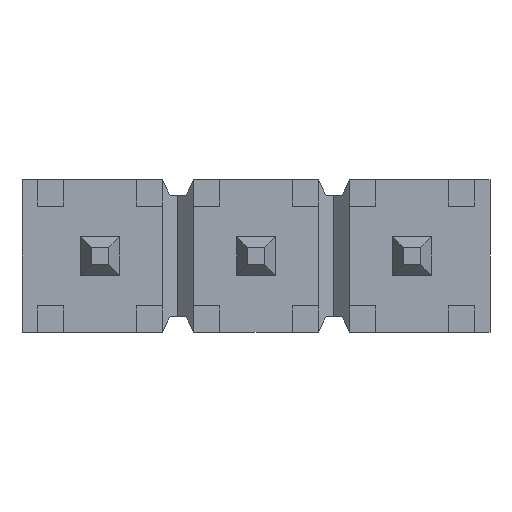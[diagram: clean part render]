
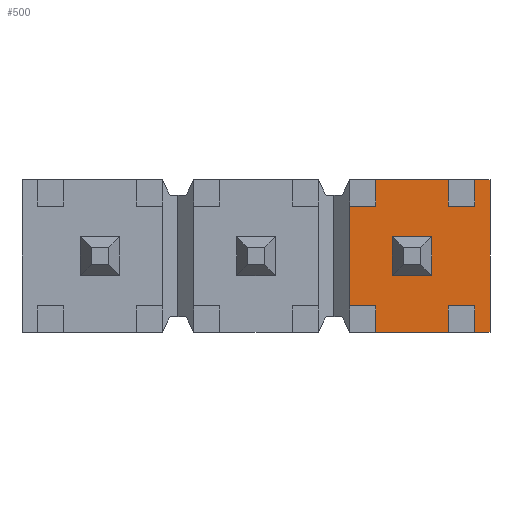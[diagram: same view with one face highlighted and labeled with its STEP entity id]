
A CAD part, front view. The second image highlights one B-rep face of the part: STEP entity #500.
In plain terms, the highlighted planar face has unit normal (0, -1, 0).
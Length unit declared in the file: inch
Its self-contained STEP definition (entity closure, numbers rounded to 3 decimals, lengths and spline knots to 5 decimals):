
#500 = ADVANCED_FACE( '', ( #995, #996 ), #997, .T. );
#995 = FACE_OUTER_BOUND( '', #1483, .T. );
#996 = FACE_BOUND( '', #1484, .T. );
#997 = PLANE( '', #1485 );
#1483 = EDGE_LOOP( '', ( #2764, #2765, #2766, #2767, #2768, #2769, #2770, #2771, #2772, #2773, #2774, #2775, #2776, #2777, #2778, #2779 ) );
#1484 = EDGE_LOOP( '', ( #2780, #2781, #2782, #2783 ) );
#1485 = AXIS2_PLACEMENT_3D( '', #2784, #2785, #2786 );
#2764 = ORIENTED_EDGE( '', *, *, #3361, .T. );
#2765 = ORIENTED_EDGE( '', *, *, #3070, .T. );
#2766 = ORIENTED_EDGE( '', *, *, #3288, .T. );
#2767 = ORIENTED_EDGE( '', *, *, #3168, .T. );
#2768 = ORIENTED_EDGE( '', *, *, #2960, .F. );
#2769 = ORIENTED_EDGE( '', *, *, #3067, .T. );
#2770 = ORIENTED_EDGE( '', *, *, #3415, .T. );
#2771 = ORIENTED_EDGE( '', *, *, #3116, .T. );
#2772 = ORIENTED_EDGE( '', *, *, #3111, .F. );
#2773 = ORIENTED_EDGE( '', *, *, #3251, .F. );
#2774 = ORIENTED_EDGE( '', *, *, #3296, .T. );
#2775 = ORIENTED_EDGE( '', *, *, #3430, .T. );
#2776 = ORIENTED_EDGE( '', *, *, #3329, .F. );
#2777 = ORIENTED_EDGE( '', *, *, #3275, .F. );
#2778 = ORIENTED_EDGE( '', *, *, #3214, .T. );
#2779 = ORIENTED_EDGE( '', *, *, #3431, .T. );
#2780 = ORIENTED_EDGE( '', *, *, #3336, .F. );
#2781 = ORIENTED_EDGE( '', *, *, #3368, .F. );
#2782 = ORIENTED_EDGE( '', *, *, #3165, .F. );
#2783 = ORIENTED_EDGE( '', *, *, #3040, .F. );
#2784 = CARTESIAN_POINT( '', ( 0.18637, 0.02, 0.098 ) );
#2785 = DIRECTION( '', ( 0., -1., 0. ) );
#2786 = DIRECTION( '', ( 1., 0., 0. ) );
#2960 = EDGE_CURVE( '', #3534, #3535, #3536, .T. );
#3040 = EDGE_CURVE( '', #3669, #3671, #3672, .T. );
#3067 = EDGE_CURVE( '', #3534, #3715, #3717, .T. );
#3070 = EDGE_CURVE( '', #3722, #3720, #3723, .T. );
#3111 = EDGE_CURVE( '', #3618, #3777, #3785, .T. );
#3116 = EDGE_CURVE( '', #3791, #3777, #3792, .T. );
#3165 = EDGE_CURVE( '', #3671, #3870, #3871, .T. );
#3168 = EDGE_CURVE( '', #3874, #3535, #3875, .T. );
#3214 = EDGE_CURVE( '', #3941, #3942, #3943, .T. );
#3251 = EDGE_CURVE( '', #3992, #3618, #3994, .T. );
#3275 = EDGE_CURVE( '', #3941, #4023, #4024, .T. );
#3288 = EDGE_CURVE( '', #3720, #3874, #4040, .T. );
#3296 = EDGE_CURVE( '', #3992, #4049, #4050, .T. );
#3329 = EDGE_CURVE( '', #4023, #4093, #4094, .T. );
#3336 = EDGE_CURVE( '', #4100, #3669, #4102, .T. );
#3361 = EDGE_CURVE( '', #4135, #3722, #4136, .T. );
#3368 = EDGE_CURVE( '', #3870, #4100, #4144, .T. );
#3415 = EDGE_CURVE( '', #3715, #3791, #4193, .T. );
#3430 = EDGE_CURVE( '', #4049, #4093, #4208, .T. );
#3431 = EDGE_CURVE( '', #3942, #4135, #4209, .T. );
#3534 = VERTEX_POINT( '', #4350 );
#3535 = VERTEX_POINT( '', #4351 );
#3536 = LINE( '', #4352, #4353 );
#3618 = VERTEX_POINT( '', #4472 );
#3669 = VERTEX_POINT( '', #4547 );
#3671 = VERTEX_POINT( '', #4550 );
#3672 = LINE( '', #4551, #4552 );
#3715 = VERTEX_POINT( '', #4615 );
#3717 = LINE( '', #4618, #4619 );
#3720 = VERTEX_POINT( '', #4623 );
#3722 = VERTEX_POINT( '', #4626 );
#3723 = LINE( '', #4627, #4628 );
#3777 = VERTEX_POINT( '', #4709 );
#3785 = LINE( '', #4722, #4723 );
#3791 = VERTEX_POINT( '', #4731 );
#3792 = LINE( '', #4732, #4733 );
#3870 = VERTEX_POINT( '', #4849 );
#3871 = LINE( '', #4850, #4851 );
#3874 = VERTEX_POINT( '', #4855 );
#3875 = LINE( '', #4856, #4857 );
#3941 = VERTEX_POINT( '', #4957 );
#3942 = VERTEX_POINT( '', #4958 );
#3943 = LINE( '', #4959, #4960 );
#3992 = VERTEX_POINT( '', #5037 );
#3994 = LINE( '', #5040, #5041 );
#4023 = VERTEX_POINT( '', #5084 );
#4024 = LINE( '', #5085, #5086 );
#4040 = LINE( '', #5110, #5111 );
#4049 = VERTEX_POINT( '', #5124 );
#4050 = LINE( '', #5125, #5126 );
#4093 = VERTEX_POINT( '', #5191 );
#4094 = LINE( '', #5192, #5193 );
#4100 = VERTEX_POINT( '', #5202 );
#4102 = LINE( '', #5205, #5206 );
#4135 = VERTEX_POINT( '', #5256 );
#4136 = LINE( '', #5257, #5258 );
#4144 = LINE( '', #5270, #5271 );
#4193 = LINE( '', #5343, #5344 );
#4208 = LINE( '', #5363, #5364 );
#4209 = LINE( '', #5365, #5366 );
#4350 = CARTESIAN_POINT( '', ( 0.12312, 0.02, 0.049 ) );
#4351 = CARTESIAN_POINT( '', ( 0.12312, 0.02, 0.032 ) );
#4352 = CARTESIAN_POINT( '', ( 0.12312, 0.02, 0.098 ) );
#4353 = VECTOR( '', #5428, 39.37008 );
#4472 = CARTESIAN_POINT( '', ( 0.06, 0.02, -0.032 ) );
#4547 = CARTESIAN_POINT( '', ( 0.0875, 0.02, -0.0125 ) );
#4550 = CARTESIAN_POINT( '', ( 0.1125, 0.02, -0.0125 ) );
#4551 = CARTESIAN_POINT( '', ( 0.1125, 0.02, -0.0125 ) );
#4552 = VECTOR( '', #5491, 39.37008 );
#4615 = CARTESIAN_POINT( '', ( 0.07688, 0.02, 0.049 ) );
#4618 = CARTESIAN_POINT( '', ( -0.15, 0.02, 0.049 ) );
#4619 = VECTOR( '', #5513, 39.37008 );
#4623 = CARTESIAN_POINT( '', ( 0.14012, 0.02, 0.049 ) );
#4626 = CARTESIAN_POINT( '', ( 0.15, 0.02, 0.049 ) );
#4627 = CARTESIAN_POINT( '', ( -0.15, 0.02, 0.049 ) );
#4628 = VECTOR( '', #5516, 39.37008 );
#4709 = CARTESIAN_POINT( '', ( 0.06, 0.02, 0.032 ) );
#4722 = CARTESIAN_POINT( '', ( 0.06, 0.02, 0.3 ) );
#4723 = VECTOR( '', #5549, 39.37008 );
#4731 = CARTESIAN_POINT( '', ( 0.07688, 0.02, 0.032 ) );
#4732 = CARTESIAN_POINT( '', ( 0.3, 0.02, 0.032 ) );
#4733 = VECTOR( '', #5552, 39.37008 );
#4849 = CARTESIAN_POINT( '', ( 0.1125, 0.02, 0.0125 ) );
#4850 = CARTESIAN_POINT( '', ( 0.1125, 0.02, 0.0125 ) );
#4851 = VECTOR( '', #5591, 39.37008 );
#4855 = CARTESIAN_POINT( '', ( 0.14012, 0.02, 0.032 ) );
#4856 = CARTESIAN_POINT( '', ( 0.3, 0.02, 0.032 ) );
#4857 = VECTOR( '', #5593, 39.37008 );
#4957 = CARTESIAN_POINT( '', ( 0.14012, 0.02, -0.032 ) );
#4958 = CARTESIAN_POINT( '', ( 0.14012, 0.02, -0.049 ) );
#4959 = CARTESIAN_POINT( '', ( 0.14012, 0.02, 0.098 ) );
#4960 = VECTOR( '', #5628, 39.37008 );
#5037 = CARTESIAN_POINT( '', ( 0.07688, 0.02, -0.032 ) );
#5040 = CARTESIAN_POINT( '', ( 0.3, 0.02, -0.032 ) );
#5041 = VECTOR( '', #5658, 39.37008 );
#5084 = CARTESIAN_POINT( '', ( 0.12312, 0.02, -0.032 ) );
#5085 = CARTESIAN_POINT( '', ( 0.3, 0.02, -0.032 ) );
#5086 = VECTOR( '', #5673, 39.37008 );
#5110 = CARTESIAN_POINT( '', ( 0.14012, 0.02, 0.098 ) );
#5111 = VECTOR( '', #5682, 39.37008 );
#5124 = CARTESIAN_POINT( '', ( 0.07688, 0.02, -0.049 ) );
#5125 = CARTESIAN_POINT( '', ( 0.07688, 0.02, 0.098 ) );
#5126 = VECTOR( '', #5687, 39.37008 );
#5191 = CARTESIAN_POINT( '', ( 0.12312, 0.02, -0.049 ) );
#5192 = CARTESIAN_POINT( '', ( 0.12312, 0.02, 0.098 ) );
#5193 = VECTOR( '', #5710, 39.37008 );
#5202 = CARTESIAN_POINT( '', ( 0.0875, 0.02, 0.0125 ) );
#5205 = CARTESIAN_POINT( '', ( 0.0875, 0.02, -0.0125 ) );
#5206 = VECTOR( '', #5715, 39.37008 );
#5256 = CARTESIAN_POINT( '', ( 0.15, 0.02, -0.049 ) );
#5257 = CARTESIAN_POINT( '', ( 0.15, 0.02, 0.049 ) );
#5258 = VECTOR( '', #5733, 39.37008 );
#5270 = CARTESIAN_POINT( '', ( 0.0875, 0.02, 0.0125 ) );
#5271 = VECTOR( '', #5738, 39.37008 );
#5343 = CARTESIAN_POINT( '', ( 0.07688, 0.02, 0.098 ) );
#5344 = VECTOR( '', #5762, 39.37008 );
#5363 = CARTESIAN_POINT( '', ( 0.15, 0.02, -0.049 ) );
#5364 = VECTOR( '', #5767, 39.37008 );
#5365 = CARTESIAN_POINT( '', ( 0.15, 0.02, -0.049 ) );
#5366 = VECTOR( '', #5768, 39.37008 );
#5428 = DIRECTION( '', ( 0., 0., -1. ) );
#5491 = DIRECTION( '', ( 1., 0., 0. ) );
#5513 = DIRECTION( '', ( -1., 0., 0. ) );
#5516 = DIRECTION( '', ( -1., 0., 0. ) );
#5549 = DIRECTION( '', ( 0., 0., 1. ) );
#5552 = DIRECTION( '', ( -1., 0., 0. ) );
#5591 = DIRECTION( '', ( 0., 0., 1. ) );
#5593 = DIRECTION( '', ( -1., 0., 0. ) );
#5628 = DIRECTION( '', ( 0., 0., -1. ) );
#5658 = DIRECTION( '', ( -1., 0., 0. ) );
#5673 = DIRECTION( '', ( -1., 0., 0. ) );
#5682 = DIRECTION( '', ( 0., 0., -1. ) );
#5687 = DIRECTION( '', ( 0., 0., -1. ) );
#5710 = DIRECTION( '', ( 0., 0., -1. ) );
#5715 = DIRECTION( '', ( 0., 0., -1. ) );
#5733 = DIRECTION( '', ( 0., 0., 1. ) );
#5738 = DIRECTION( '', ( -1., 0., 0. ) );
#5762 = DIRECTION( '', ( 0., 0., -1. ) );
#5767 = DIRECTION( '', ( 1., 0., 0. ) );
#5768 = DIRECTION( '', ( 1., 0., 0. ) );
